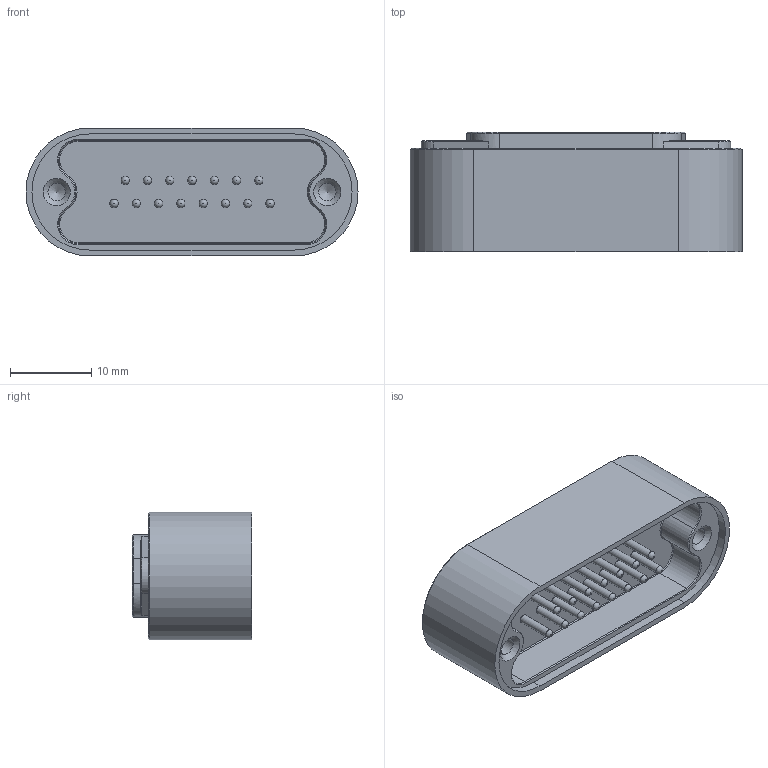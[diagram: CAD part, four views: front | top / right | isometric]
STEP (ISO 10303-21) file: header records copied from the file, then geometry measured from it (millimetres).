
FILE_DESCRIPTION(/* description */ ('Alibre Inc.'),/* implementation_level */ '2;1');
FILE_NAME(/* name */ 'export0',/* time_stamp */ '2016-04-28T14:14:18-07:00',/* author */ (''),/* organization */ (''),/* preprocessor_version */ 'ST-DEVELOPER v14',/* originating_system */ 'Alibre',/* authorisation */ '');
FILE_SCHEMA (('CONFIG_CONTROL_DESIGN'));
Length unit declared in the file: centimetre
Products named in the file (1): ID_1
Bounding box: 40.87 x 14.73 x 15.75 mm (x, y, z)
Volume: 4478.3 mm3; surface area: 4066.4 mm2
Topology: 1 solids, 1 shells, 1000 faces, 2656 edges, 1752 vertices
Faces by surface type: bspline 483, plane 397, cylinder 54, cone 36, torus 30
Full cylindrical faces by diameter (mm): 1.016 x30, 2.156 x4
Entity records: 30317 total; most frequent: CARTESIAN_POINT 9591, ORIENTED_EDGE 5100, EDGE_CURVE 2550, DIRECTION 2326, VERTEX_POINT 1722, VECTOR 1406, LINE 1406, FACE_BOUND 1170
